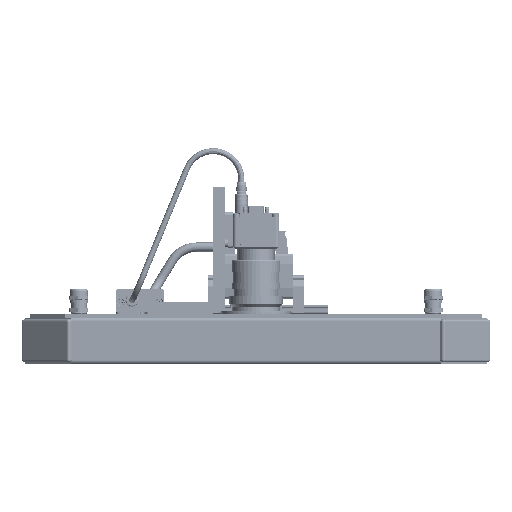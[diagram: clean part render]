
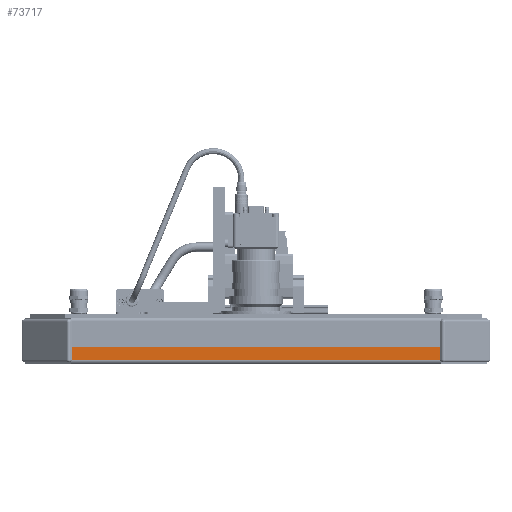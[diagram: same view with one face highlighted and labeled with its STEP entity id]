
A CAD part, left-side view. The second image highlights one B-rep face of the part: STEP entity #73717.
In plain terms, the highlighted planar face has unit normal (-1, 0, 0).
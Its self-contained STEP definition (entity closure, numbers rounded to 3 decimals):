
#2559 = LINE ( 'NONE', #240601, #301789 ) ;
#4558 = ORIENTED_EDGE ( 'NONE', *, *, #71743, .T. ) ;
#11759 =( BOUNDED_CURVE ( )  B_SPLINE_CURVE ( 3, ( #79805, #172676, #110480, #103277 ),
 .UNSPECIFIED., .F., .F. ) 
 B_SPLINE_CURVE_WITH_KNOTS ( ( 4, 4 ),
 ( 3.298, 3.394 ),
 .UNSPECIFIED. ) 
 CURVE ( )  GEOMETRIC_REPRESENTATION_ITEM ( )  RATIONAL_B_SPLINE_CURVE ( ( 1., 0.999, 0.999, 1. ) ) 
 REPRESENTATION_ITEM ( '' )  );
#14466 = ORIENTED_EDGE ( 'NONE', *, *, #259457, .F. ) ;
#16389 = DIRECTION ( 'NONE',  ( -1., 0., 0. ) ) ;
#21105 = EDGE_CURVE ( 'NONE', #207562, #89427, #258208, .T. ) ;
#22870 = VERTEX_POINT ( 'NONE', #232847 ) ;
#37002 = FACE_OUTER_BOUND ( 'NONE', #238147, .T. ) ;
#41695 = VECTOR ( 'NONE', #248135, 1000. ) ;
#42221 = CARTESIAN_POINT ( 'NONE',  ( -350., -159.024, -36.876 ) ) ;
#44654 =( BOUNDED_CURVE ( )  B_SPLINE_CURVE ( 3, ( #111642, #42221, #202396, #85134 ),
 .UNSPECIFIED., .F., .F. ) 
 B_SPLINE_CURVE_WITH_KNOTS ( ( 4, 4 ),
 ( 3.298, 3.394 ),
 .UNSPECIFIED. ) 
 CURVE ( )  GEOMETRIC_REPRESENTATION_ITEM ( )  RATIONAL_B_SPLINE_CURVE ( ( 1., 0.999, 0.999, 1. ) ) 
 REPRESENTATION_ITEM ( '' )  );
#57082 = DIRECTION ( 'NONE',  ( 0., 0., 1. ) ) ;
#71395 = ORIENTED_EDGE ( 'NONE', *, *, #235532, .F. ) ;
#71743 = EDGE_CURVE ( 'NONE', #22870, #296100, #11759, .T. ) ;
#73498 = AXIS2_PLACEMENT_3D ( 'NONE', #223514, #16389, #83807 ) ;
#73717 = ADVANCED_FACE ( 'NONE', ( #37002 ), #292778, .T. ) ;
#79805 = CARTESIAN_POINT ( 'NONE',  ( -350., 159.01, -36.812 ) ) ;
#83807 = DIRECTION ( 'NONE',  ( 0., 0., 1. ) ) ;
#85024 = CARTESIAN_POINT ( 'NONE',  ( -350., 159.01, -20. ) ) ;
#85134 = CARTESIAN_POINT ( 'NONE',  ( -350., -159.065, -37. ) ) ;
#86170 = EDGE_CURVE ( 'NONE', #176338, #89427, #2559, .T. ) ;
#86222 = EDGE_CURVE ( 'NONE', #296100, #238598, #283412, .T. ) ;
#89427 = VERTEX_POINT ( 'NONE', #274051 ) ;
#90233 = VECTOR ( 'NONE', #57082, 1000. ) ;
#90399 = CARTESIAN_POINT ( 'NONE',  ( -350., 159.01, -25.8 ) ) ;
#103277 = CARTESIAN_POINT ( 'NONE',  ( -350., 159.065, -37. ) ) ;
#105831 = ORIENTED_EDGE ( 'NONE', *, *, #86222, .T. ) ;
#110480 = CARTESIAN_POINT ( 'NONE',  ( -350., 159.042, -36.938 ) ) ;
#111133 = LINE ( 'NONE', #85024, #41695 ) ;
#111642 = CARTESIAN_POINT ( 'NONE',  ( -350., -159.01, -36.812 ) ) ;
#117501 = CARTESIAN_POINT ( 'NONE',  ( -350., -159.01, -36.812 ) ) ;
#117941 = ORIENTED_EDGE ( 'NONE', *, *, #21105, .T. ) ;
#126557 = CARTESIAN_POINT ( 'NONE',  ( -350., -159.065, -37. ) ) ;
#172676 = CARTESIAN_POINT ( 'NONE',  ( -350., 159.024, -36.876 ) ) ;
#176182 = CARTESIAN_POINT ( 'NONE',  ( -350., 159.065, -37. ) ) ;
#176338 = VERTEX_POINT ( 'NONE', #90399 ) ;
#177632 = VECTOR ( 'NONE', #272990, 1000. ) ;
#202396 = CARTESIAN_POINT ( 'NONE',  ( -350., -159.042, -36.938 ) ) ;
#207562 = VERTEX_POINT ( 'NONE', #117501 ) ;
#217832 = ORIENTED_EDGE ( 'NONE', *, *, #86170, .F. ) ;
#223514 = CARTESIAN_POINT ( 'NONE',  ( -350., -160., -25.8 ) ) ;
#232847 = CARTESIAN_POINT ( 'NONE',  ( -350., 159.01, -36.812 ) ) ;
#235532 = EDGE_CURVE ( 'NONE', #22870, #176338, #111133, .T. ) ;
#238147 = EDGE_LOOP ( 'NONE', ( #71395, #4558, #105831, #14466, #117941, #217832 ) ) ;
#238598 = VERTEX_POINT ( 'NONE', #126557 ) ;
#240601 = CARTESIAN_POINT ( 'NONE',  ( -350., -160., -25.8 ) ) ;
#243597 = DIRECTION ( 'NONE',  ( 0., -1., 0. ) ) ;
#248135 = DIRECTION ( 'NONE',  ( 0., 0., 1. ) ) ;
#258208 = LINE ( 'NONE', #285484, #90233 ) ;
#259457 = EDGE_CURVE ( 'NONE', #207562, #238598, #44654, .T. ) ;
#272990 = DIRECTION ( 'NONE',  ( 0., -1., 0. ) ) ;
#274051 = CARTESIAN_POINT ( 'NONE',  ( -350., -159.01, -25.8 ) ) ;
#283412 = LINE ( 'NONE', #292472, #177632 ) ;
#285484 = CARTESIAN_POINT ( 'NONE',  ( -350., -159.01, -25.8 ) ) ;
#292472 = CARTESIAN_POINT ( 'NONE',  ( -350., -160., -37. ) ) ;
#292778 = PLANE ( 'NONE',  #73498 ) ;
#296100 = VERTEX_POINT ( 'NONE', #176182 ) ;
#301789 = VECTOR ( 'NONE', #243597, 1000. ) ;
